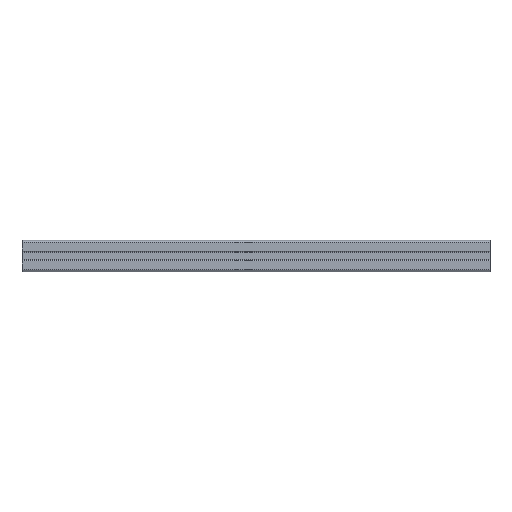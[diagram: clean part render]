
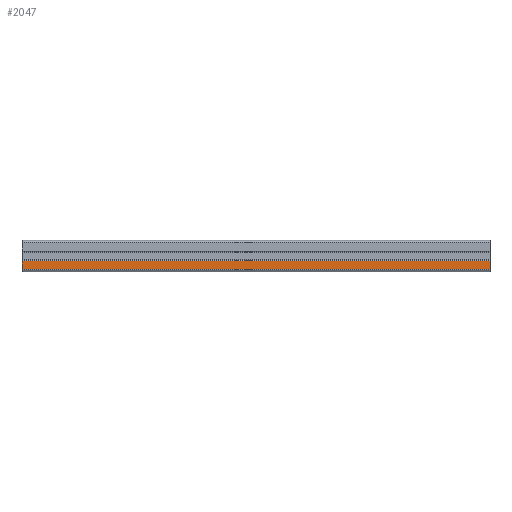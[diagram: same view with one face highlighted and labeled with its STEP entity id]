
A CAD part, front view. The second image highlights one B-rep face of the part: STEP entity #2047.
In plain terms, the highlighted free-form (B-spline) face has degree [1, 1] with [2, 2] control points.
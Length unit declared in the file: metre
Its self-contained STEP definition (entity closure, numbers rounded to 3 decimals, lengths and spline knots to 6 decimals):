
#25=B_SPLINE_SURFACE_WITH_KNOTS('',1,1,((#2998,#2999),(#3000,#3001)),
 .PLANE_SURF.,.F.,.F.,.F.,(2,2),(2,2),(0.,1.),(0.,1.),.UNSPECIFIED.);
#115=LINE('',#2995,#315);
#116=LINE('',#3002,#316);
#117=LINE('',#3004,#317);
#118=LINE('',#3006,#318);
#315=VECTOR('',#2366,1.);
#316=VECTOR('',#2369,1.);
#317=VECTOR('',#2370,1.);
#318=VECTOR('',#2371,1.);
#570=ORIENTED_EDGE('',*,*,#1178,.T.);
#571=ORIENTED_EDGE('',*,*,#1180,.F.);
#572=ORIENTED_EDGE('',*,*,#1181,.F.);
#573=ORIENTED_EDGE('',*,*,#1182,.T.);
#1178=EDGE_CURVE('',#1471,#1470,#115,.T.);
#1180=EDGE_CURVE('',#1472,#1470,#116,.T.);
#1181=EDGE_CURVE('',#1473,#1472,#117,.T.);
#1182=EDGE_CURVE('',#1473,#1471,#118,.T.);
#1470=VERTEX_POINT('',#2994);
#1471=VERTEX_POINT('',#2996);
#1472=VERTEX_POINT('',#3003);
#1473=VERTEX_POINT('',#3005);
#1775=EDGE_LOOP('',(#570,#571,#572,#573));
#1883=FACE_BOUND('',#1775,.T.);
#2047=ADVANCED_FACE('',(#1883),#25,.T.);
#2366=DIRECTION('',(1.,0.,0.));
#2369=DIRECTION('',(0.,0.,-1.));
#2370=DIRECTION('',(1.,0.,0.));
#2371=DIRECTION('',(0.,0.,-1.));
#2994=CARTESIAN_POINT('',(0.114457,-0.02,0.026853));
#2995=CARTESIAN_POINT('',(-0.185543,-0.02,0.026853));
#2996=CARTESIAN_POINT('',(-0.185543,-0.02,0.026853));
#2998=CARTESIAN_POINT('',(-0.200543,-0.02,0.032483));
#2999=CARTESIAN_POINT('',(0.129457,-0.02,0.032483));
#3000=CARTESIAN_POINT('',(-0.200543,-0.02,0.026585));
#3001=CARTESIAN_POINT('',(0.129457,-0.02,0.026585));
#3002=CARTESIAN_POINT('',(0.114457,-0.02,0.029534));
#3003=CARTESIAN_POINT('',(0.114457,-0.02,0.032215));
#3004=CARTESIAN_POINT('',(-0.185543,-0.02,0.032215));
#3005=CARTESIAN_POINT('',(-0.185543,-0.02,0.032215));
#3006=CARTESIAN_POINT('',(-0.185543,-0.02,0.029534));
